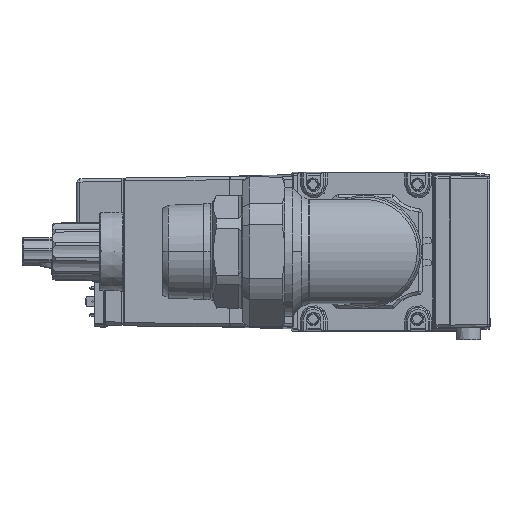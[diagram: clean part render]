
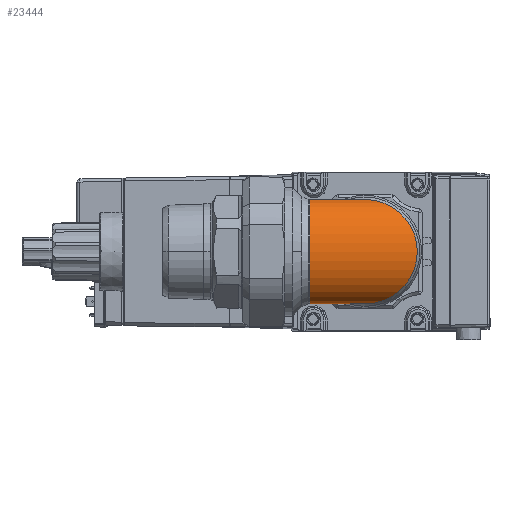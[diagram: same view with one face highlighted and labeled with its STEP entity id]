
A CAD part, left-side view. The second image highlights one B-rep face of the part: STEP entity #23444.
In plain terms, the highlighted toroidal (fillet/blend) face has major radius 35 mm and minor radius 33 mm.
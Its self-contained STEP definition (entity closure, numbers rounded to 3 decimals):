
#1933 = DIRECTION ( 'NONE',  ( 0., -1., 0. ) ) ;
#4814 = CARTESIAN_POINT ( 'NONE',  ( 0.8, 0., 0. ) ) ;
#13125 = DIRECTION ( 'NONE',  ( 0., -1., 0. ) ) ;
#15618 = CIRCLE ( 'NONE', #59678, 33. ) ;
#18509 = CIRCLE ( 'NONE', #89082, 33. ) ;
#23444 = ADVANCED_FACE ( 'NONE', ( #38159, #35611 ), #101451, .T. ) ;
#25198 = EDGE_LOOP ( 'NONE', ( #95215, #86724 ) ) ;
#25301 = CIRCLE ( 'NONE', #93395, 33. ) ;
#27167 = VERTEX_POINT ( 'NONE', #43446 ) ;
#34803 = CARTESIAN_POINT ( 'NONE',  ( 0.8, -35., 0. ) ) ;
#35611 = FACE_OUTER_BOUND ( 'NONE', #25198, .T. ) ;
#37021 = DIRECTION ( 'NONE',  ( 0., 1., 0. ) ) ;
#38159 = FACE_OUTER_BOUND ( 'NONE', #95031, .T. ) ;
#38986 = DIRECTION ( 'NONE',  ( 0., 1., 0. ) ) ;
#39229 = CARTESIAN_POINT ( 'NONE',  ( 0.8, 0., 0. ) ) ;
#43446 = CARTESIAN_POINT ( 'NONE',  ( 0.8, -33., 0. ) ) ;
#45600 = CARTESIAN_POINT ( 'NONE',  ( 0.8, 33., 0. ) ) ;
#47544 = DIRECTION ( 'NONE',  ( 0., -1., 0. ) ) ;
#49008 = EDGE_CURVE ( 'NONE', #68073, #90329, #15618, .T. ) ;
#49366 = VERTEX_POINT ( 'NONE', #45600 ) ;
#59678 = AXIS2_PLACEMENT_3D ( 'NONE', #86438, #37021, #94748 ) ;
#62571 = DIRECTION ( 'NONE',  ( -1., 0., 0. ) ) ;
#63079 = ORIENTED_EDGE ( 'NONE', *, *, #78551, .T. ) ;
#63215 = AXIS2_PLACEMENT_3D ( 'NONE', #4814, #62571, #13125 ) ;
#68073 = VERTEX_POINT ( 'NONE', #81679 ) ;
#70679 = ORIENTED_EDGE ( 'NONE', *, *, #94076, .T. ) ;
#75854 = DIRECTION ( 'NONE',  ( 0., 0., 1. ) ) ;
#78551 = EDGE_CURVE ( 'NONE', #49366, #27167, #97961, .T. ) ;
#81679 = CARTESIAN_POINT ( 'NONE',  ( -1.2, -35., 0. ) ) ;
#81808 = EDGE_CURVE ( 'NONE', #90329, #68073, #25301, .T. ) ;
#86438 = CARTESIAN_POINT ( 'NONE',  ( -34.2, -35., 0. ) ) ;
#86724 = ORIENTED_EDGE ( 'NONE', *, *, #49008, .T. ) ;
#88406 = CARTESIAN_POINT ( 'NONE',  ( -34.2, -35., 0. ) ) ;
#89082 = AXIS2_PLACEMENT_3D ( 'NONE', #39229, #96954, #47544 ) ;
#90329 = VERTEX_POINT ( 'NONE', #99390 ) ;
#93395 = AXIS2_PLACEMENT_3D ( 'NONE', #88406, #38986, #96713 ) ;
#94076 = EDGE_CURVE ( 'NONE', #27167, #49366, #18509, .T. ) ;
#94748 = DIRECTION ( 'NONE',  ( -1., 0., 0. ) ) ;
#95031 = EDGE_LOOP ( 'NONE', ( #70679, #63079 ) ) ;
#95215 = ORIENTED_EDGE ( 'NONE', *, *, #81808, .T. ) ;
#96713 = DIRECTION ( 'NONE',  ( -1., 0., 0. ) ) ;
#96954 = DIRECTION ( 'NONE',  ( -1., 0., 0. ) ) ;
#97961 = CIRCLE ( 'NONE', #63215, 33. ) ;
#99390 = CARTESIAN_POINT ( 'NONE',  ( -67.2, -35., 0. ) ) ;
#99961 = AXIS2_PLACEMENT_3D ( 'NONE', #34803, #75854, #1933 ) ;
#101451 = TOROIDAL_SURFACE ( 'NONE', #99961, 35., 33. ) ;
